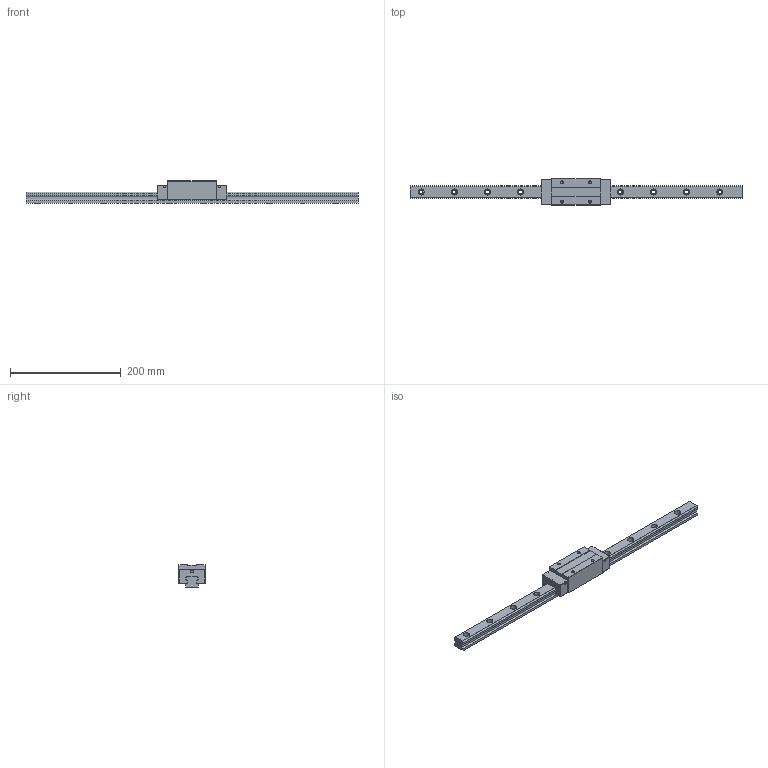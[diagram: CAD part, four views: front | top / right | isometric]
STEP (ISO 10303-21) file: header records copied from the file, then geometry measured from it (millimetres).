
FILE_DESCRIPTION (( 'STEP AP203' ), '1' );
FILE_NAME ('TRH25VE-DU.STEP', '2024-07-10T07:12:02', ( '' ), ( '' ), 'SwSTEP 2.0', 'SolidWorks 2022', '' );
FILE_SCHEMA (( 'CONFIG_CONTROL_DESIGN' ));
Length unit declared in the file: millimetre
Products named in the file (1): TRH25VE-DU
Bounding box: 600 x 48 x 40 mm (x, y, z)
Volume: 387924.1 mm3; surface area: 86515.8 mm2
Topology: 2 solids, 2 shells, 200 faces, 520 edges, 336 vertices
Faces by surface type: cylinder 96, plane 88, cone 16
Entity records: 6223 total; most frequent: DIRECTION 1114, CARTESIAN_POINT 1049, ORIENTED_EDGE 1024, EDGE_CURVE 512, AXIS2_PLACEMENT_3D 401, VERTEX_POINT 336, LINE 312, VECTOR 312
